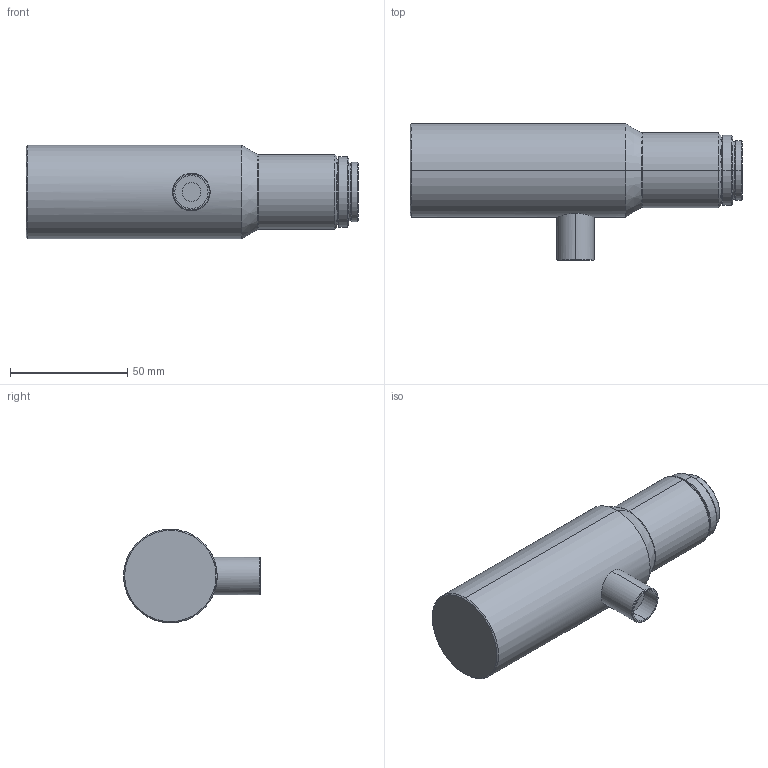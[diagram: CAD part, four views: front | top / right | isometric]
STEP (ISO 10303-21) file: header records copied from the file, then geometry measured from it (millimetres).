
FILE_DESCRIPTION (( 'STEP AP203' ), '1' );
FILE_NAME ('VS-TC4-220CO.STEP', '2015-07-17T07:09:10', ( 'miura_vst' ), ( '' ), 'SwSTEP 2.0', 'SolidWorks 2015', '' );
FILE_SCHEMA (( 'CONFIG_CONTROL_DESIGN' ));
Length unit declared in the file: millimetre
Products named in the file (1): VS-TC4-220CO
Bounding box: 141.8 x 58.5 x 40 mm (x, y, z)
Volume: 157579.8 mm3; surface area: 20324.1 mm2
Topology: 1 solids, 1 shells, 47 faces, 92 edges, 54 vertices
Faces by surface type: cone 20, cylinder 18, plane 9
Entity records: 1365 total; most frequent: CARTESIAN_POINT 284, DIRECTION 238, ORIENTED_EDGE 184, AXIS2_PLACEMENT_3D 100, EDGE_CURVE 92, EDGE_LOOP 54, VERTEX_POINT 54, CIRCLE 52
